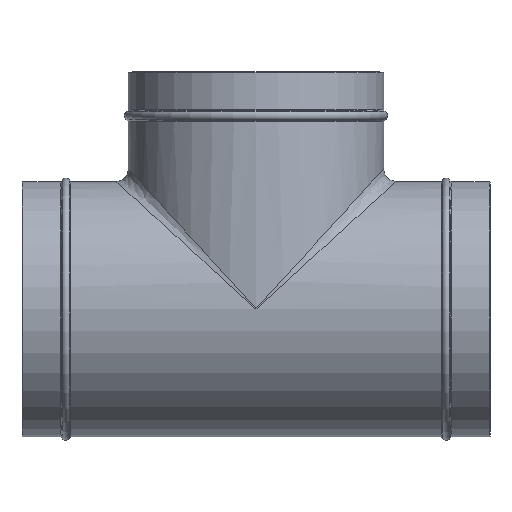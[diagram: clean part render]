
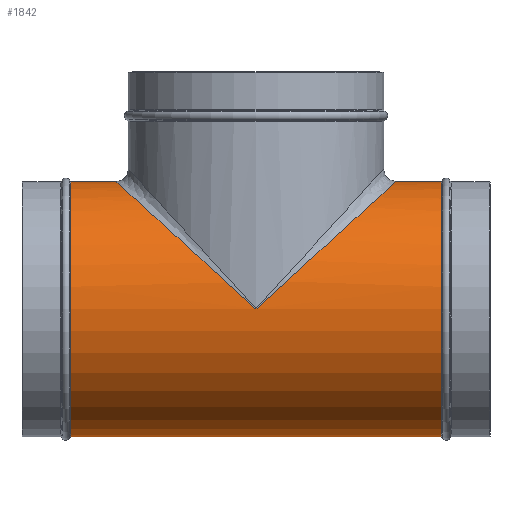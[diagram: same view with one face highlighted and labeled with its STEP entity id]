
A CAD part, top view. The second image highlights one B-rep face of the part: STEP entity #1842.
In plain terms, the highlighted cylindrical face has radius 102.25 mm (diameter 204.5 mm), a partial arc.
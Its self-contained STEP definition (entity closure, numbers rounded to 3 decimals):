
#411=DIRECTION('',(-1.,0.,0.));
#412=VECTOR('',#411,36.167);
#413=CARTESIAN_POINT('',(148.417,102.25,0.));
#414=LINE('',#413,#412);
#418=CARTESIAN_POINT('',(112.25,102.25,0.));
#468=DIRECTION('',(-1.,0.,0.));
#469=VECTOR('',#468,36.167);
#470=CARTESIAN_POINT('',(-112.25,102.25,0.));
#471=LINE('',#470,#469);
#483=DIRECTION('',(-1.,0.,0.));
#484=VECTOR('',#483,296.835);
#485=CARTESIAN_POINT('',(148.417,-102.25,0.));
#486=LINE('',#485,#484);
#566=CARTESIAN_POINT('',(148.417,0.,0.));
#567=DIRECTION('',(1.,0.,0.));
#568=DIRECTION('',(0.,1.,0.));
#569=AXIS2_PLACEMENT_3D('',#566,#567,#568);
#574=CARTESIAN_POINT('',(-148.417,0.,0.));
#575=DIRECTION('',(-1.,0.,0.));
#576=DIRECTION('',(0.,-1.,0.));
#577=AXIS2_PLACEMENT_3D('',#574,#575,#576);
#582=CARTESIAN_POINT('',(-112.25,102.25,0.));
#583=CARTESIAN_POINT('',(-112.25,102.25,3.903));
#584=CARTESIAN_POINT('',(-111.77,101.813,11.337));
#585=CARTESIAN_POINT('',(-109.886,100.097,21.584));
#586=CARTESIAN_POINT('',(-107.458,97.885,29.916));
#587=CARTESIAN_POINT('',(-104.524,95.213,37.608));
#588=CARTESIAN_POINT('',(-100.477,91.526,45.891));
#589=CARTESIAN_POINT('',(-95.789,87.255,53.515));
#590=CARTESIAN_POINT('',(-91.111,82.994,59.871));
#591=CARTESIAN_POINT('',(-86.177,78.5,65.669));
#592=CARTESIAN_POINT('',(-80.246,73.097,71.655));
#593=CARTESIAN_POINT('',(-73.771,67.199,77.203));
#594=CARTESIAN_POINT('',(-67.219,61.23,81.998));
#595=CARTESIAN_POINT('',(-60.629,55.228,86.166));
#596=CARTESIAN_POINT('',(-52.956,48.238,90.282));
#597=CARTESIAN_POINT('',(-44.862,40.866,93.847));
#598=CARTESIAN_POINT('',(-36.697,33.428,96.73));
#599=CARTESIAN_POINT('',(-29.204,26.603,98.811));
#600=CARTESIAN_POINT('',(-21.518,19.601,100.446));
#601=CARTESIAN_POINT('',(-12.487,11.374,101.765));
#602=CARTESIAN_POINT('',(-4.434,4.039,102.25));
#603=CARTESIAN_POINT('',(0.,0.,102.25));
#608=CARTESIAN_POINT('',(0.,0.,102.25));
#609=CARTESIAN_POINT('',(4.546,4.141,102.25));
#610=CARTESIAN_POINT('',(12.727,11.593,101.739));
#611=CARTESIAN_POINT('',(21.57,19.648,100.43));
#612=CARTESIAN_POINT('',(28.979,26.397,98.86));
#613=CARTESIAN_POINT('',(36.296,33.062,96.854));
#614=CARTESIAN_POINT('',(44.568,40.598,93.968));
#615=CARTESIAN_POINT('',(52.849,48.14,90.341));
#616=CARTESIAN_POINT('',(60.674,55.269,86.14));
#617=CARTESIAN_POINT('',(67.202,61.215,82.009));
#618=CARTESIAN_POINT('',(73.825,67.248,77.165));
#619=CARTESIAN_POINT('',(80.414,73.251,71.504));
#620=CARTESIAN_POINT('',(86.413,78.715,65.412));
#621=CARTESIAN_POINT('',(91.281,83.149,59.655));
#622=CARTESIAN_POINT('',(95.969,87.419,53.248));
#623=CARTESIAN_POINT('',(100.618,91.654,45.631));
#624=CARTESIAN_POINT('',(104.619,95.299,37.382));
#625=CARTESIAN_POINT('',(107.504,97.927,29.773));
#626=CARTESIAN_POINT('',(109.919,100.127,21.444));
#627=CARTESIAN_POINT('',(111.78,101.822,11.235));
#628=CARTESIAN_POINT('',(112.25,102.25,3.863));
#629=CARTESIAN_POINT('',(112.25,102.25,0.));
#1218=VERTEX_POINT('',#582);
#1219=VERTEX_POINT('',#603);
#1222=VERTEX_POINT('',#418);
#1260=CARTESIAN_POINT('',(148.417,-102.25,0.));
#1261=CARTESIAN_POINT('',(148.417,102.25,0.));
#1262=VERTEX_POINT('',#1260);
#1263=VERTEX_POINT('',#1261);
#1276=CARTESIAN_POINT('',(-148.417,-102.25,0.));
#1277=CARTESIAN_POINT('',(-148.417,102.25,0.));
#1278=VERTEX_POINT('',#1276);
#1279=VERTEX_POINT('',#1277);
#1826=CARTESIAN_POINT('',(-206.25,0.,0.));
#1827=DIRECTION('',(1.,0.,0.));
#1828=DIRECTION('',(0.,-1.,0.));
#1829=AXIS2_PLACEMENT_3D('',#1826,#1827,#1828);
#1830=CYLINDRICAL_SURFACE('',#1829,102.25);
#1831=ORIENTED_EDGE('',*,*,#1817,.T.);
#1832=ORIENTED_EDGE('',*,*,#1760,.T.);
#1834=ORIENTED_EDGE('',*,*,#1833,.T.);
#1835=ORIENTED_EDGE('',*,*,#1756,.F.);
#1837=ORIENTED_EDGE('',*,*,#1836,.T.);
#1838=ORIENTED_EDGE('',*,*,#1643,.T.);
#1839=ORIENTED_EDGE('',*,*,#1751,.F.);
#1840=EDGE_LOOP('',(#1831,#1832,#1834,#1835,#1837,#1838,#1839));
#1841=FACE_OUTER_BOUND('',#1840,.F.);
#570=CIRCLE('',#569,102.25);
#578=CIRCLE('',#577,102.25);
#604=B_SPLINE_CURVE_WITH_KNOTS('',3,(#582,#583,#584,#585,#586,#587,#588,#589,
#590,#591,#592,#593,#594,#595,#596,#597,#598,#599,#600,#601,#602,#603),
.UNSPECIFIED.,.F.,.F.,(4,1,1,1,1,1,1,1,1,1,1,1,1,1,1,1,1,1,1,4),(0.,
0.053,0.105,0.158,0.211,
0.263,0.316,0.368,0.421,
0.474,0.526,0.579,0.632,
0.684,0.737,0.789,0.842,
0.895,0.947,1.),.UNSPECIFIED.);
#630=B_SPLINE_CURVE_WITH_KNOTS('',3,(#608,#609,#610,#611,#612,#613,#614,#615,
#616,#617,#618,#619,#620,#621,#622,#623,#624,#625,#626,#627,#628,#629),
.UNSPECIFIED.,.F.,.F.,(4,1,1,1,1,1,1,1,1,1,1,1,1,1,1,1,1,1,1,4),(0.,
0.053,0.105,0.158,0.211,
0.263,0.316,0.368,0.421,
0.474,0.526,0.579,0.632,
0.684,0.737,0.789,0.842,
0.895,0.947,1.),.UNSPECIFIED.);
#1643=EDGE_CURVE('',#1219,#1222,#630,.T.);
#1751=EDGE_CURVE('',#1263,#1222,#414,.T.);
#1756=EDGE_CURVE('',#1218,#1279,#471,.T.);
#1760=EDGE_CURVE('',#1262,#1278,#486,.T.);
#1817=EDGE_CURVE('',#1263,#1262,#570,.T.);
#1833=EDGE_CURVE('',#1278,#1279,#578,.T.);
#1836=EDGE_CURVE('',#1218,#1219,#604,.T.);
#1842=ADVANCED_FACE('',(#1841),#1830,.T.);
